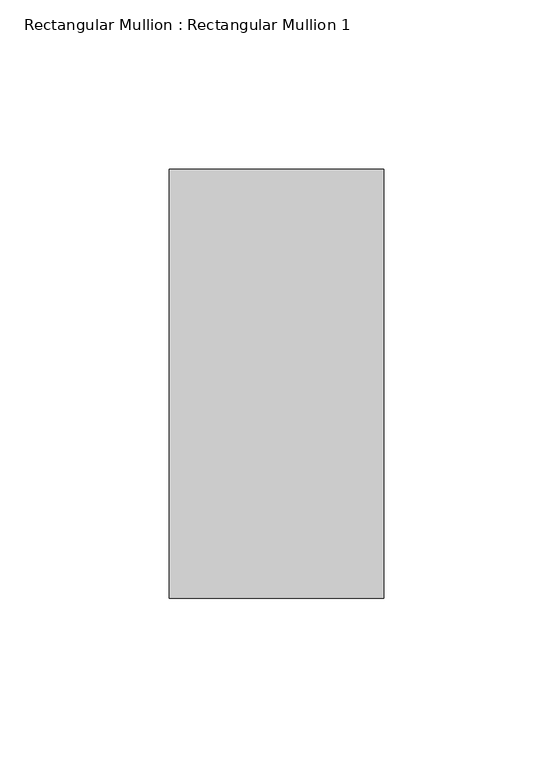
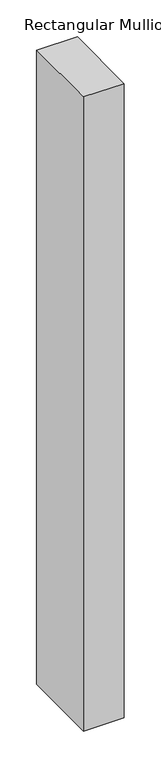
"""IFC4 building model written with IfcOpenShell, lengths in millimetres: member geometry, Rectangular Mullion : Rectangular Mullion 1."""

from ifc_helpers import new_model, si_unit, frame, origin, place, context, project, spatial, polyline, outline, extrude, source, transform, mapped, element, save


def rectangular_mullion_rectangular_mullion_1_871cc721(model_context):
    return source(origin(), model_context, "Body", "SweptSolid", [
        extrude(outline(polyline([(0.0, 63.5), (0.0, -63.5), (-63.5, -63.5), (-63.5, 63.5), (0.0, 63.5)])), frame((0.0, 0.0, -1047.8895219), z_axis=(0.0, 0.0, 1.0), x_axis=(1.0, 0.0, 0.0)), (0.0, 0.0, 1.0), 1047.8895219),
    ])


if __name__ == "__main__":
    model = new_model("IFC4")
    model_context = context("Model", 3, world=origin())
    ifc_project = project(units=[si_unit("LENGTHUNIT", "METRE", prefix="MILLI")], contexts=[model_context])
    site = spatial("IfcSite", under=ifc_project)
    building = spatial("IfcBuilding", under=site)
    placement = place(None, origin())
    rectangular_mullion_rectangular_mullion_1_shape = rectangular_mullion_rectangular_mullion_1_871cc721(model_context)
    element("IfcMember", 1, ObjectType="Rectangular Mullion : Rectangular Mullion 1", at=placement, inside=building, context=model_context, shape_type="MappedRepresentation", body=[
        mapped(rectangular_mullion_rectangular_mullion_1_shape, transform((0.0, 0.0, 0.0), x_axis=(1.0, 0.0, 0.0), y_axis=(0.0, 1.0, 0.0), z_axis=(0.0, 0.0, 1.0))),
    ])
    save(model, "model.ifc")
